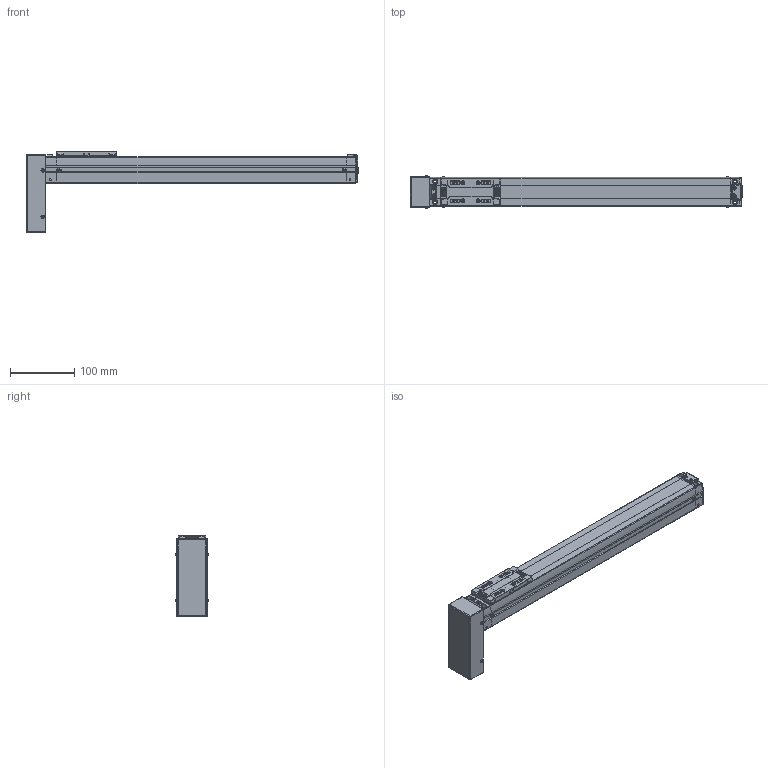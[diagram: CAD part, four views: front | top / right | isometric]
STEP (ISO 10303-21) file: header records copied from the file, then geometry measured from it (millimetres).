
FILE_DESCRIPTION(('STEP AP214'),'1');
FILE_NAME('Z:/Web/3D/SAN45/2013.ver/STP/SAN45ㅁㅁ-350PB.stp','2013-05-15T11:45:26',(' '),(' '),'Spatial InterOp 3D',' ',' ');
FILE_SCHEMA(('automotive_design'));
Length unit declared in the file: millimetre
Products named in the file (28): BODY-SAN45; REAR-SAN45; RRCV-SAN45; BHCS M3 x 6L; BHCS M3 X 6L; FRONT-SAN45; SHAFT; RN8 x 0.75; SSFX-SAN45; SLIDE-SAN45; SLCV-IM45; FHCS M3 x 6L; BTCV-SAN45
Bounding box: 516.15 x 51.13 x 126 mm (x, y, z)
Volume: 1049341.7 mm3; surface area: 162146.5 mm2
Topology: 28 solids, 28 shells, 1712 faces, 4447 edges, 2868 vertices
Faces by surface type: plane 887, cylinder 599, cone 128, bspline 40, sphere 40, torus 12, extrusion 6
Entity records: 70485 total; most frequent: CARTESIAN_POINT 13405, DIRECTION 9244, ORIENTED_EDGE 8790, EDGE_CURVE 4395, AXIS2_PLACEMENT_3D 3256, VERTEX_POINT 2868, VECTOR 2732, LINE 2726
